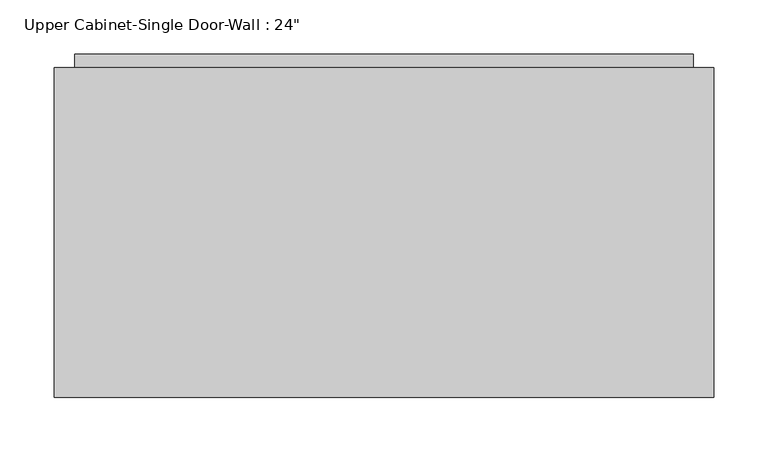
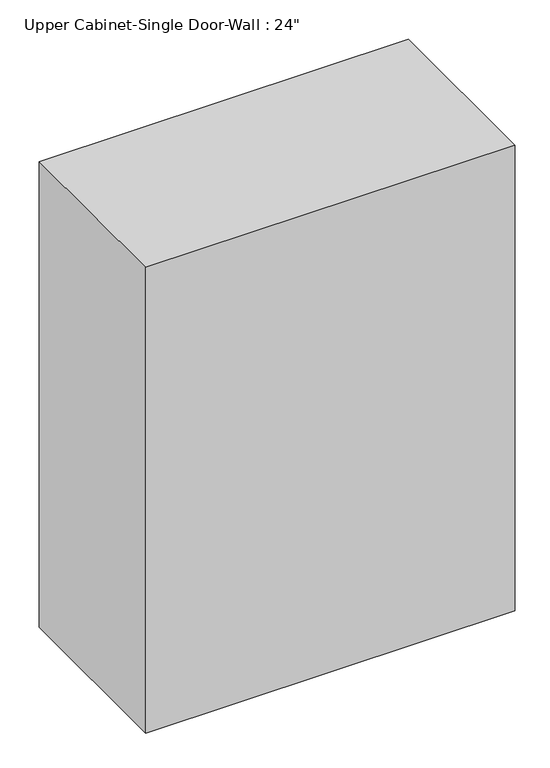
"""IFC4 building model written with IfcOpenShell, lengths in millimetres: furniture geometry."""

from ifc_helpers import new_model, si_unit, frame, origin, place, context, project, spatial, polyline, outline, extrude, faceted_brep, source, transform, mapped, element, save


def furniture_61d967b8(model_context):
    return source(origin(), model_context, "Body", "SolidModel", [
        faceted_brep([(-351.2288372, 76.2, 2133.6), (-351.2288372, 76.2, 1320.8), (258.3711628, 76.2, 1320.8), (258.3711628, 76.2, 2133.6), (-351.2288372, 381.0, 2133.6), (258.3711628, 381.0, 2133.6), (258.3711628, 381.0, 1320.8), (-351.2288372, 381.0, 1320.8), (-332.1788372, 381.0, 2114.55), (-332.1788372, 381.0, 1339.85), (239.3211628, 381.0, 1339.85), (239.3211628, 381.0, 2114.55), (239.3211628, 95.25, 2114.55), (-332.1788372, 95.25, 2114.55), (239.3211628, 95.25, 1339.85), (-332.1788372, 95.25, 1339.85)], [[[0, 1, 2, 3]], [[4, 5, 6, 7], [8, 9, 10, 11]], [[1, 0, 4, 7]], [[2, 1, 7, 6]], [[3, 2, 6, 5]], [[0, 3, 5, 4]], [[8, 11, 12, 13]], [[11, 10, 14, 12]], [[10, 9, 15, 14]], [[9, 8, 13, 15]], [[13, 12, 14, 15]]]),
        extrude(outline(polyline([(-332.1788372, 393.7), (239.3211628, 393.7), (239.3211628, 361.95), (-332.1788372, 361.95), (-332.1788372, 393.7)])), frame((0.0, 0.0, 1339.85), z_axis=(0.0, 0.0, 1.0), x_axis=(1.0, 0.0, 0.0)), (0.0, 0.0, 1.0), 774.7),
    ])


if __name__ == "__main__":
    model = new_model("IFC4")
    model_context = context("Model", 3, world=origin())
    ifc_project = project(units=[si_unit("LENGTHUNIT", "METRE", prefix="MILLI")], contexts=[model_context])
    site = spatial("IfcSite", under=ifc_project)
    building = spatial("IfcBuilding", under=site)
    placement = place(None, origin())
    furniture_shape = furniture_61d967b8(model_context)
    element("IfcFurniture", 1, ObjectType="Upper Cabinet-Single Door-Wall : 24\"", at=placement, inside=building, context=model_context, shape_type="MappedRepresentation", body=[
        mapped(furniture_shape, transform((0.0, 0.0, 0.0), x_axis=(1.0, 0.0, 0.0), y_axis=(0.0, 1.0, 0.0), z_axis=(0.0, 0.0, 1.0))),
    ])
    save(model, "model.ifc")
